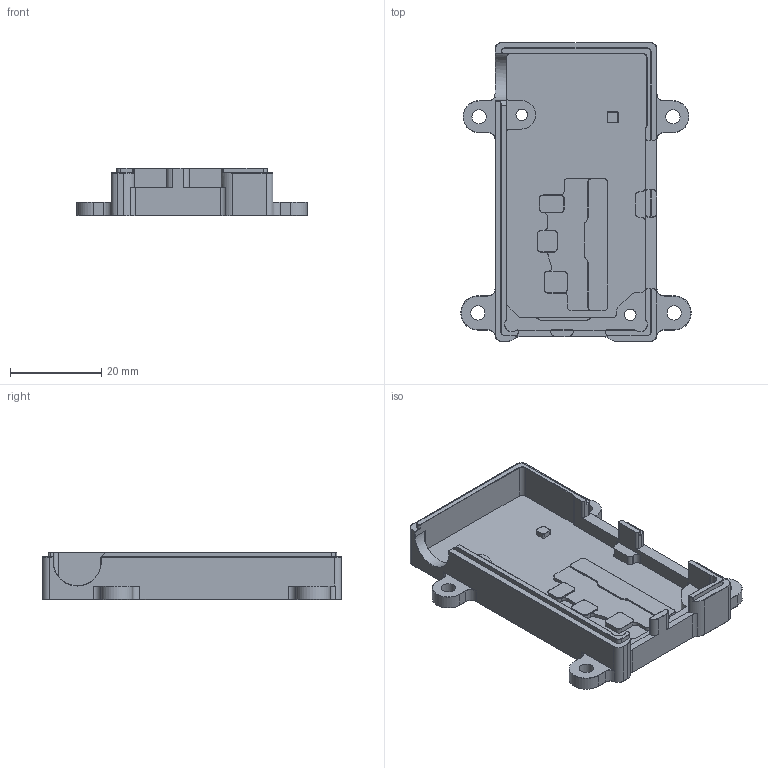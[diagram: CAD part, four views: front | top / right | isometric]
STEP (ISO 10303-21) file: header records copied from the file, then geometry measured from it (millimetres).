
FILE_DESCRIPTION(/* description */ (''),/* implementation_level */ '2;1');
FILE_NAME(/* name */ 'C:/Users/Андрей/Desktop/CAN DRV heatsink_files/for OLD CAN DRV/Case.step',/* time_stamp */ '2022-03-01T19:03:57+03:00',/* author */ (''),/* organization */ (''),/* preprocessor_version */ 'ST-DEVELOPER v18.1',/* originating_system */ 'Autodesk Translation Framework v10.13.0.1454',/* authorisation */ '');
FILE_SCHEMA (('AUTOMOTIVE_DESIGN { 1 0 10303 214 3 1 1 }'));
Length unit declared in the file: millimetre
Products named in the file (1): Корпус теплоотвод 
для CAN DRV_1.0.6 ver
Bounding box: 50.5 x 65.5 x 10.4 mm (x, y, z)
Volume: 10275.8 mm3; surface area: 8362.5 mm2
Topology: 1 solids, 1 shells, 394 faces, 996 edges, 606 vertices
Faces by surface type: plane 188, cylinder 110, cone 94, bspline 2
Full cylindrical faces by diameter (mm): 2.5 x2, 3.1 x4
Entity records: 11863 total; most frequent: CARTESIAN_POINT 2189, DIRECTION 2091, ORIENTED_EDGE 1992, EDGE_CURVE 996, AXIS2_PLACEMENT_3D 721, LINE 649, VECTOR 649, VERTEX_POINT 606
